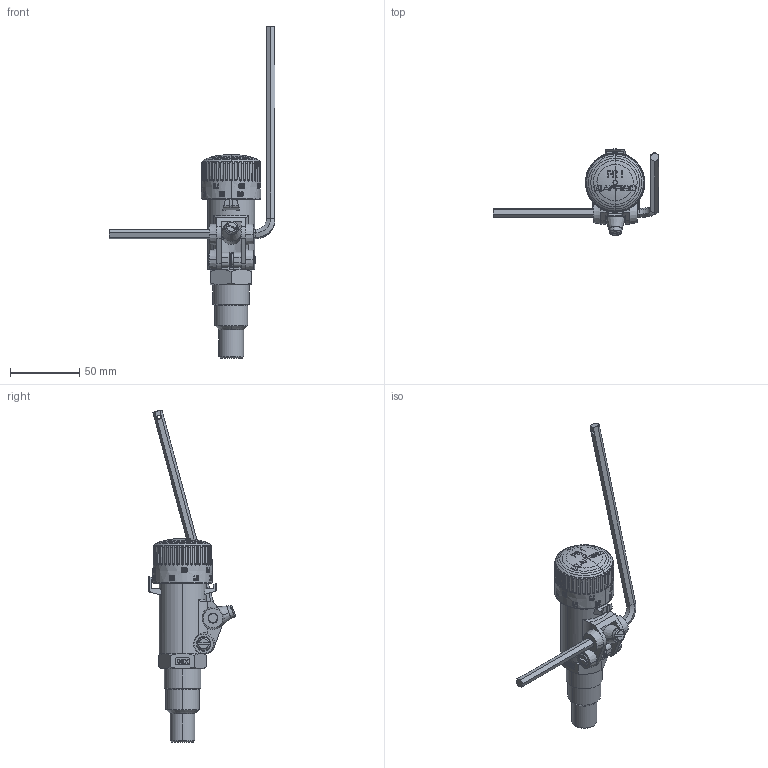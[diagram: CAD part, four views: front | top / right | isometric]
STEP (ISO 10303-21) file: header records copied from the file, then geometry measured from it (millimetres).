
FILE_DESCRIPTION (( 'STEP AP214' ), '1' );
FILE_NAME ('42294.STEP', '2022-05-23T07:25:44', ( '' ), ( '' ), 'SwSTEP 2.0', 'SolidWorks 2021', '' );
FILE_SCHEMA (( 'AUTOMOTIVE_DESIGN' ));
Length unit declared in the file: millimetre
Products named in the file (10): 42294; FR124-020-036; Feuerungsregler FR 1_695 000 0168; ZZ12-12-0006; FR124-020-042; ZZ12-10-0016; Feuerungsregler-Honeywell; FR124-020-027; 05 00 510310_Handrad Feuerungsregler; ZZ12-02-0039
Assembly tree (9 placements, depth 3):
  42294
    Feuerungsregler-Honeywell
      Feuerungsregler FR 1_695 000 0168
      FR124-020-042
      ZZ12-10-0016
      ZZ12-02-0039
      05 00 510310_Handrad Feuerungsregler
    FR124-020-036
    FR124-020-027
    ZZ12-12-0006
Bounding box: 120 x 62.66 x 240.15 mm (x, y, z)
Volume: 65964.6 mm3; surface area: 52038.4 mm2
Topology: 8 solids, 8 shells, 1619 faces, 4379 edges, 2850 vertices
Faces by surface type: plane 911, cylinder 304, cone 208, torus 120, bspline 76
Entity records: 75790 total; most frequent: CARTESIAN_POINT 19798, ORIENTED_EDGE 8758, DIRECTION 6610, EDGE_CURVE 4379, VERTEX_POINT 2850, AXIS2_PLACEMENT_3D 2313, LINE 1984, VECTOR 1984
